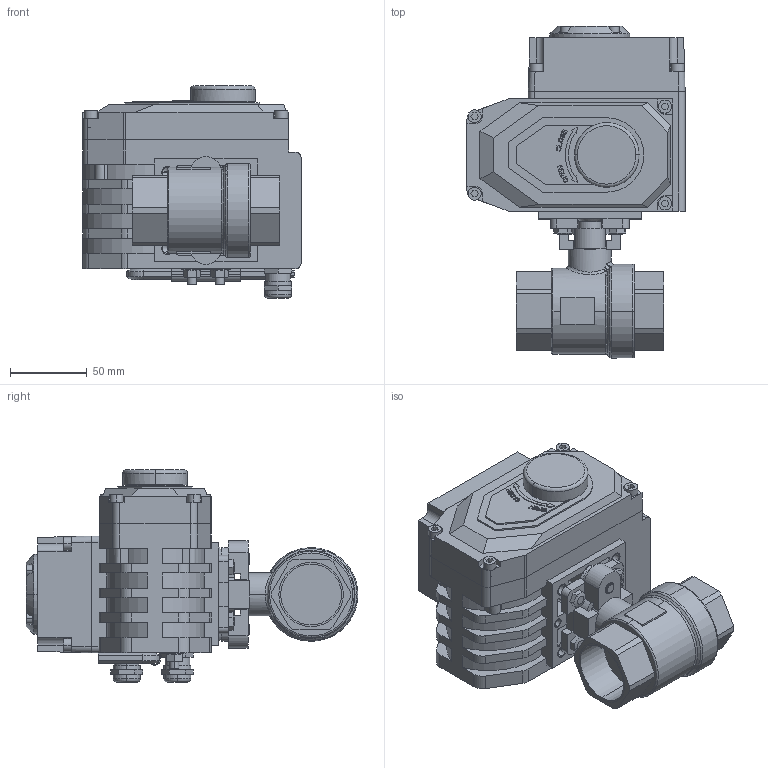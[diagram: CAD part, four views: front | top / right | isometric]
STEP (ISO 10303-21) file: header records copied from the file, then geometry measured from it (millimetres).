
FILE_DESCRIPTION((''),'2;1');
FILE_NAME('BV-21F_EAR_T_ASM','2025-03-02T',('AMD'),(''),'PRO/ENGINEER BY PARAMETRIC TECHNOLOGY CORPORATION, 2008020','PRO/ENGINEER BY PARAMETRIC TECHNOLOGY CORPORATION, 2008020','');
FILE_SCHEMA(('CONFIG_CONTROL_DESIGN'));
Length unit declared in the file: millimetre
Products named in the file (16): KORPUS_KRANA; SHAIBA_KRANA; VINT_KRANA; SB_KRAN_ASM; DET_1; V-11738-M5; V-11738-M4; DET_2; KREPLENIE; KLUCH; DET_3; G-5915-M6; ELECTROPRIVOD_ASM; ELECTROPRIVOD_WITH_DISPLAY_ASM; B-7798-M6-20; BV-21F_EAR_T_ASM
Assembly tree (30 placements, depth 4):
  BV-21F_EAR_T_ASM
    SB_KRAN_ASM
      KORPUS_KRANA
      SHAIBA_KRANA
      VINT_KRANA  x2
    ELECTROPRIVOD_WITH_DISPLAY_ASM
      ELECTROPRIVOD_ASM
        DET_1
        V-11738-M5  x8
        V-11738-M4  x4
        DET_2
        KREPLENIE
        KLUCH
        DET_3
        G-5915-M6  x2
    B-7798-M6-20  x4
Bounding box: 142 x 216 x 138 mm (x, y, z)
Volume: 1554738.3 mm3; surface area: 208632.1 mm2
Topology: 27 solids, 65 shells, 1313 faces, 3394 edges, 2218 vertices
Faces by surface type: plane 862, cylinder 334, cone 83, torus 20, bspline 12, sphere 2
Entity records: 33794 total; most frequent: CARTESIAN_POINT 6723, DIRECTION 5602, ORIENTED_EDGE 5452, EDGE_CURVE 2774, VECTOR 2056, LINE 2056, VERTEX_POINT 1828, AXIS2_PLACEMENT_3D 1773
